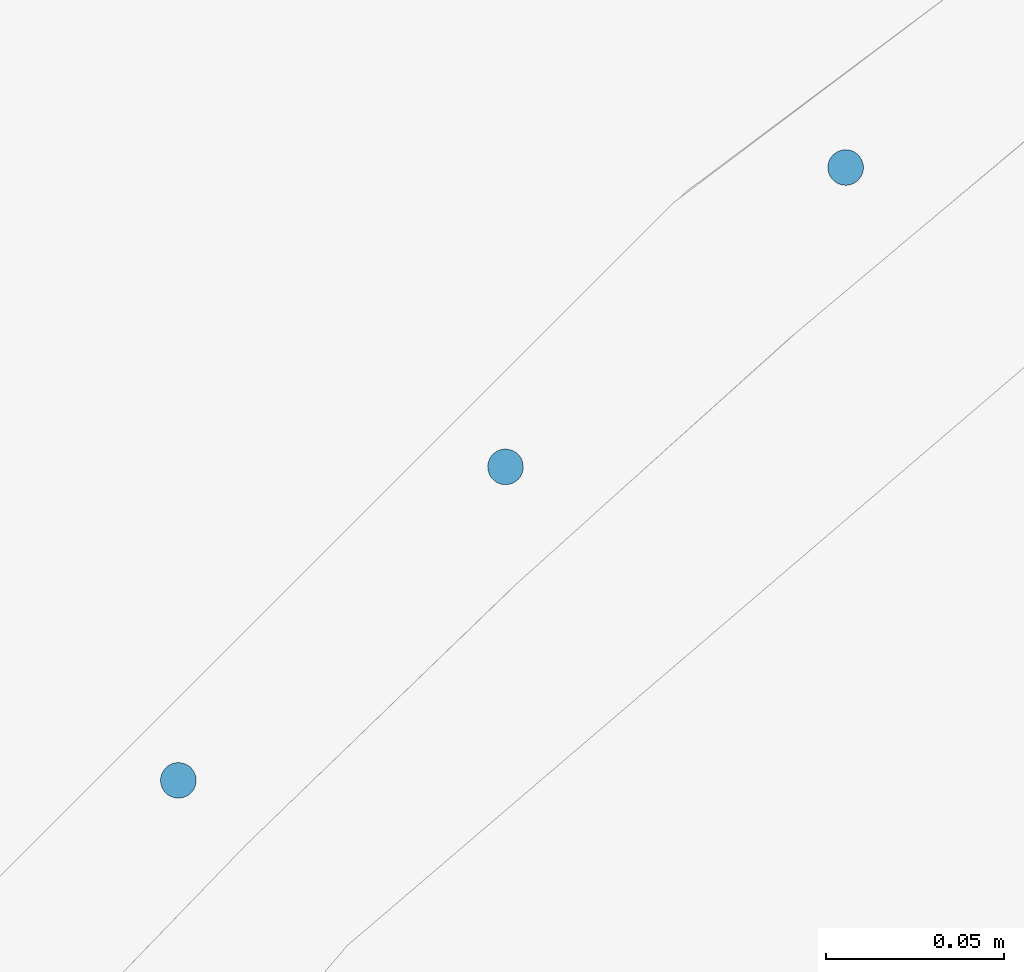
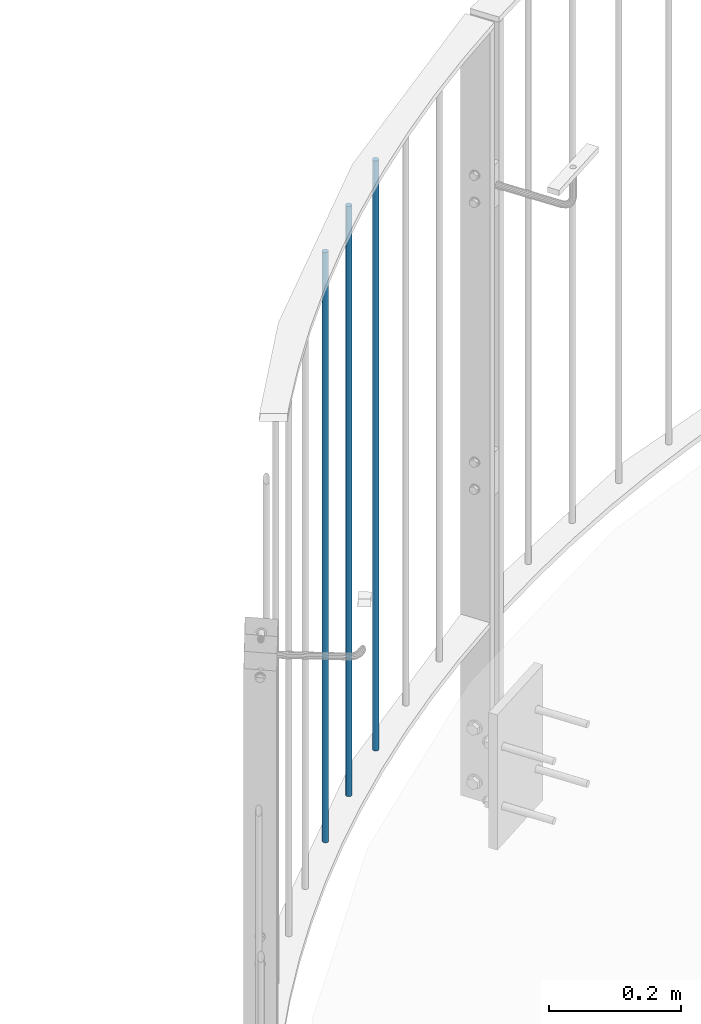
# One storey, part 65 of 296: 3 columns.
"""IFC2X3 building model written with IfcOpenShell, lengths in millimetres."""

from ifc_helpers import new_model, entity, si_unit, converted_unit, frame, origin, origin_with_axes, origin_2d, place, context, project, spatial, circle, extrude, material, element, save


model = new_model("IFC2X3")

# Units and contexts
model_context = context("Model", 3, precision=1e-09, world=origin_with_axes())
ifc_project = project(units=[si_unit("LENGTHUNIT", "METRE", prefix="MILLI"), si_unit("AREAUNIT", "SQUARE_METRE"), si_unit("VOLUMEUNIT", "CUBIC_METRE"), converted_unit("PLANEANGLEUNIT", "DEGREE", entity("IfcPlaneAngleMeasure", 0.01745329), si_unit("PLANEANGLEUNIT", "RADIAN"), dimensions=[0, 0, 0, 0, 0, 0, 0])], contexts=[model_context])

# Site, building, storey
site_placement = place(None, origin_with_axes())
site = spatial("IfcSite", under=ifc_project, at=site_placement, Name="TZD-S?d | Treppenhausgel?nder", CompositionType="ELEMENT")
building_placement = place(site_placement, origin_with_axes())
building = spatial("IfcBuilding", under=site, at=building_placement, Name="Struktur 1", CompositionType="ELEMENT")
storey_placement = place(building_placement, origin_with_axes())
storey = spatial("IfcBuildingStorey", under=building, at=storey_placement, Name="Default Storey", CompositionType="ELEMENT", Elevation=0.0)

# Columns
ifc_material = material(Name="S235JR")
for number, where, z_axis, x_axis in (
    (1, (809.371309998, 2014.545248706, 7350.0), (0.0, 0.0, 1.0), (0.422618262, 0.906307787, 0.0)),
    (2, (901.029416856, 2102.391557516, 7350.0), (0.0, 0.0, 1.0), (0.422618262, 0.906307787, 0.0)),
    (3, (996.33407058, 2186.267689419, 7350.0), (0.0, 0.0, 1.0), (0.422618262, 0.906307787, 0.0)),
):
    element("IfcColumn", number, at=place(None, frame(where, z_axis=z_axis, x_axis=x_axis)), inside=storey, material=ifc_material, Name="-", ObjectType="-", context=model_context, shape_type="SweptSolid", body=[
        extrude(circle(Radius=5.0, at=origin_2d()), origin(), (0.0, 0.0, 1.0), 1090.0),
    ])

save(model, "model.ifc")
